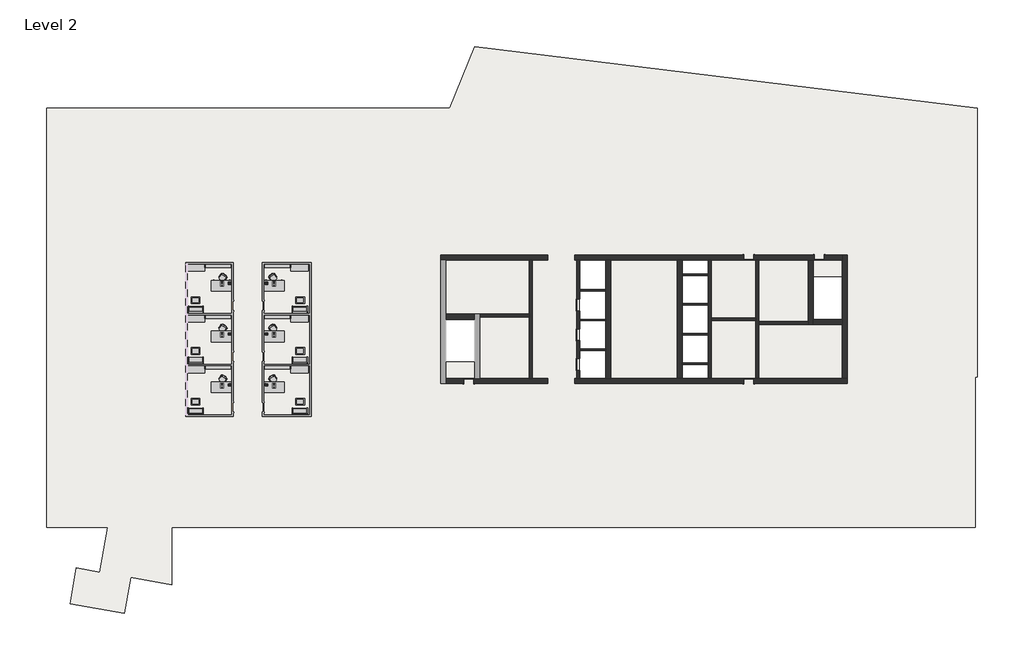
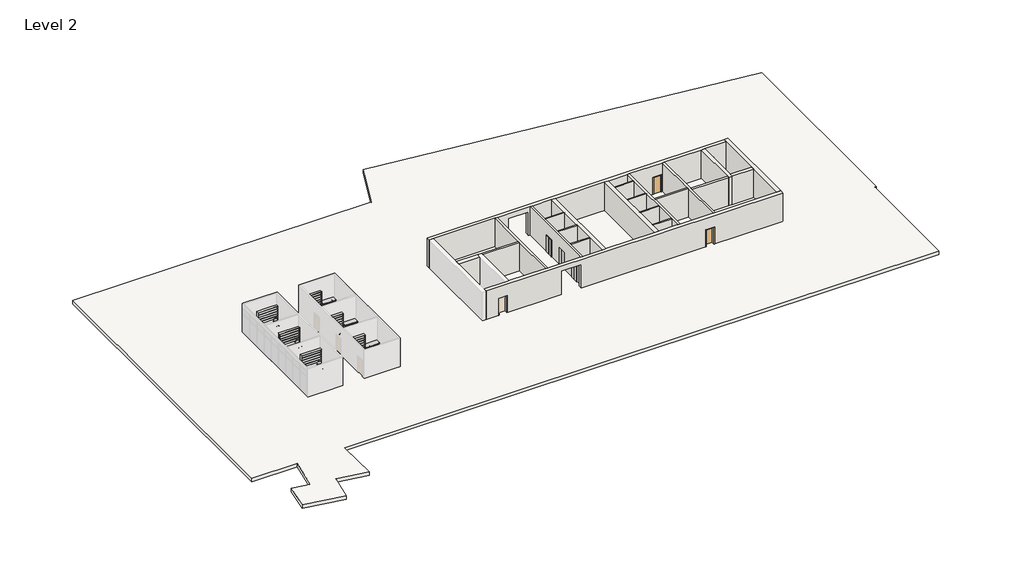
# One storey, part 2 of 2: 36 furniture elements, 22 walls, 15 proxies, 3 doors, 1 slab.
"""IFC4 building model written with IfcOpenShell, lengths in millimetres."""

from ifc_helpers import new_model, si_unit, frame, origin, place, context, project, spatial, polyline, outline, extrude, faceted_brep, transform, mapped, element, save
from components import entourage_0ad6723a, entourage_8dadc95b, proxy_7fed659c, phone_phone_5230e7aa, phone_phone_b8b7aebd, door_3c99239a, door_aec9db07, chair_executive_chair_executive_8d69e98c, chair_executive_chair_executive_a5be4872, furniture_894c625b, furniture_2f1724fb, furniture_2fc54265, furniture_91cd4dc0, furniture_b1da5ad0, furniture_33c9adaf, furniture_22419f35, furniture_8ec9ccbf, furniture_5f90431c, furniture_32e53e92

model = new_model("IFC4")

# Units and contexts
model_context = context("Model", 3, world=origin())
ifc_project = project(units=[si_unit("LENGTHUNIT", "METRE", prefix="MILLI")], contexts=[model_context])

# Site, building, storey
site = spatial("IfcSite", under=ifc_project)
building = spatial("IfcBuilding", under=site)
storey = spatial("IfcBuildingStorey", under=building, Name="Level 2", Elevation=3657.6)

# Proxies
placement = place(None, origin())
entourage_shape = entourage_0ad6723a(model_context)
element("IfcBuildingElementProxy", 1, Name="RPC Notebook Computer : RPC Notebook Computer", ObjectType="RPC Notebook Computer : RPC Notebook Computer", at=placement, inside=storey, context=model_context, shape_type="MappedRepresentation", body=[
    mapped(entourage_shape, transform((-52901.4856498, -14963.1103492, 4419.6), x_axis=(-1.0, 0.0, 0.0), y_axis=(0.0, -1.0, 0.0), z_axis=(0.0, 0.0, 1.0))),
])
element("IfcBuildingElementProxy", 2, Name="RPC Notebook Computer : RPC Notebook Computer", ObjectType="RPC Notebook Computer : RPC Notebook Computer", at=placement, inside=storey, context=model_context, shape_type="MappedRepresentation", body=[
    mapped(entourage_shape, transform((-52901.4856498, -10391.1103492, 4419.6), x_axis=(-1.0, 0.0, 0.0), y_axis=(0.0, -1.0, 0.0), z_axis=(0.0, 0.0, 1.0))),
])
element("IfcBuildingElementProxy", 3, Name="RPC Notebook Computer : RPC Notebook Computer", ObjectType="RPC Notebook Computer : RPC Notebook Computer", at=placement, inside=storey, context=model_context, shape_type="MappedRepresentation", body=[
    mapped(entourage_shape, transform((-52901.4856498, -5819.1103492, 4419.6), x_axis=(-1.0, 0.0, 0.0), y_axis=(0.0, -1.0, 0.0), z_axis=(0.0, 0.0, 1.0))),
])
entourage_2_shape = entourage_8dadc95b(model_context)
element("IfcBuildingElementProxy", 4, Name="RPC Notebook Computer : RPC Notebook Computer", ObjectType="RPC Notebook Computer : RPC Notebook Computer", at=placement, inside=storey, context=model_context, shape_type="MappedRepresentation", body=[
    mapped(entourage_2_shape, transform((-48216.9999355, -10391.1103492, 4419.6), x_axis=(1.0, 0.0, 0.0), y_axis=(0.0, 1.0, 0.0), z_axis=(0.0, 0.0, 1.0))),
])
element("IfcBuildingElementProxy", 5, Name="RPC Notebook Computer : RPC Notebook Computer", ObjectType="RPC Notebook Computer : RPC Notebook Computer", at=placement, inside=storey, context=model_context, shape_type="MappedRepresentation", body=[
    mapped(entourage_2_shape, transform((-48216.9999355, -14963.1103492, 4419.6), x_axis=(1.0, 0.0, 0.0), y_axis=(0.0, 1.0, 0.0), z_axis=(0.0, 0.0, 1.0))),
])
element("IfcBuildingElementProxy", 6, Name="RPC Notebook Computer : RPC Notebook Computer", ObjectType="RPC Notebook Computer : RPC Notebook Computer", at=placement, inside=storey, context=model_context, shape_type="MappedRepresentation", body=[
    mapped(entourage_2_shape, transform((-48216.9999355, -5819.1103492, 4419.6), x_axis=(1.0, 0.0, 0.0), y_axis=(0.0, 1.0, 0.0), z_axis=(0.0, 0.0, 1.0))),
])
proxy_shape = proxy_7fed659c(model_context)
element("IfcBuildingElementProxy", 7, Name="Elevator%20Door-Center[1] : 42\" x 84\"", ObjectType="Elevator%20Door-Center[1] : 42\" x 84\"", at=placement, inside=storey, context=model_context, shape_type="MappedRepresentation", body=[
    mapped(proxy_shape, transform((-20852.1285069, -7663.0747049, 3657.6), x_axis=(0.0, 1.0, 0.0), y_axis=(-1.0, 0.0, 0.0), z_axis=(0.0, 0.0, 1.0))),
])
element("IfcBuildingElementProxy", 8, Name="Elevator%20Door-Center[1] : 42\" x 84\"", ObjectType="Elevator%20Door-Center[1] : 42\" x 84\"", at=placement, inside=storey, context=model_context, shape_type="MappedRepresentation", body=[
    mapped(proxy_shape, transform((-20852.1285069, -10330.0747049, 3657.6), x_axis=(0.0, 1.0, 0.0), y_axis=(-1.0, 0.0, 0.0), z_axis=(0.0, 0.0, 1.0))),
])
element("IfcBuildingElementProxy", 9, Name="Elevator%20Door-Center[1] : 42\" x 84\"", ObjectType="Elevator%20Door-Center[1] : 42\" x 84\"", at=placement, inside=storey, context=model_context, shape_type="MappedRepresentation", body=[
    mapped(proxy_shape, transform((-20852.1285069, -12997.0747049, 3657.6), x_axis=(0.0, 1.0, 0.0), y_axis=(-1.0, 0.0, 0.0), z_axis=(0.0, 0.0, 1.0))),
])
phone_phone_shape = phone_phone_5230e7aa(model_context)
element("IfcBuildingElementProxy", 10, Name="Phone : Phone", ObjectType="Phone : Phone", at=placement, inside=storey, context=model_context, shape_type="MappedRepresentation", body=[
    mapped(phone_phone_shape, transform((-51981.0043036, -15147.0065782, 4419.6), x_axis=(1.0, 0.0, 0.0), y_axis=(0.0, 1.0, 0.0), z_axis=(0.0, 0.0, 1.0))),
])
element("IfcBuildingElementProxy", 11, Name="Phone : Phone", ObjectType="Phone : Phone", at=placement, inside=storey, context=model_context, shape_type="MappedRepresentation", body=[
    mapped(phone_phone_shape, transform((-51981.0043036, -10575.0065782, 4419.6), x_axis=(1.0, 0.0, 0.0), y_axis=(0.0, 1.0, 0.0), z_axis=(0.0, 0.0, 1.0))),
])
element("IfcBuildingElementProxy", 12, Name="Phone : Phone", ObjectType="Phone : Phone", at=placement, inside=storey, context=model_context, shape_type="MappedRepresentation", body=[
    mapped(phone_phone_shape, transform((-51981.0043036, -6003.0065782, 4419.6), x_axis=(1.0, 0.0, 0.0), y_axis=(0.0, 1.0, 0.0), z_axis=(0.0, 0.0, 1.0))),
])
phone_phone_2_shape = phone_phone_b8b7aebd(model_context)
element("IfcBuildingElementProxy", 13, Name="Phone : Phone", ObjectType="Phone : Phone", at=placement, inside=storey, context=model_context, shape_type="MappedRepresentation", body=[
    mapped(phone_phone_2_shape, transform((-49137.4812816, -10575.0065782, 4419.6), x_axis=(-1.0, 0.0, 0.0), y_axis=(0.0, -1.0, 0.0), z_axis=(0.0, 0.0, 1.0))),
])
element("IfcBuildingElementProxy", 14, Name="Phone : Phone", ObjectType="Phone : Phone", at=placement, inside=storey, context=model_context, shape_type="MappedRepresentation", body=[
    mapped(phone_phone_2_shape, transform((-49137.4812816, -15147.0065782, 4419.6), x_axis=(-1.0, 0.0, 0.0), y_axis=(0.0, -1.0, 0.0), z_axis=(0.0, 0.0, 1.0))),
])
element("IfcBuildingElementProxy", 15, Name="Phone : Phone", ObjectType="Phone : Phone", at=placement, inside=storey, context=model_context, shape_type="MappedRepresentation", body=[
    mapped(phone_phone_2_shape, transform((-49137.4812816, -6003.0065782, 4419.6), x_axis=(-1.0, 0.0, 0.0), y_axis=(0.0, -1.0, 0.0), z_axis=(0.0, 0.0, 1.0))),
])

# Doors
door_shape = door_3c99239a(model_context)
element("IfcDoor", 16, ObjectType="Single-Flush : 36\" x 84\"", at=placement, inside=storey, context=model_context, shape_type="MappedRepresentation", body=[
    mapped(door_shape, transform((817.7000645, -3469.6103492, 3657.6), x_axis=(-1.0, 0.0, 0.0), y_axis=(0.0, -1.0, 0.0), z_axis=(0.0, 0.0, 1.0))),
])
element("IfcDoor", 17, ObjectType="Single-Flush : 36\" x 84\"", at=placement, inside=storey, context=model_context, shape_type="MappedRepresentation", body=[
    mapped(door_shape, transform((-5525.0427926, -14594.8103492, 3657.6), x_axis=(1.0, 0.0, 0.0), y_axis=(0.0, 1.0, 0.0), z_axis=(0.0, 0.0, 1.0))),
])
door_2_shape = door_aec9db07(model_context)
element("IfcDoor", 18, ObjectType="Single-Flush : 36\" x 84\"", at=placement, inside=storey, context=model_context, shape_type="MappedRepresentation", body=[
    mapped(door_2_shape, transform((-5525.0427926, -3469.6103492, 3657.6), x_axis=(1.0, 0.0, 0.0), y_axis=(0.0, 1.0, 0.0), z_axis=(0.0, 0.0, 1.0))),
])

# Furniture
chair_executive_chair_executive_shape = chair_executive_chair_executive_8d69e98c(model_context)
element("IfcFurniture", 19, ObjectType="Chair-Executive : Chair-Executive", at=placement, inside=storey, context=model_context, shape_type="MappedRepresentation", body=[
    mapped(chair_executive_chair_executive_shape, transform((-52699.1922211, -14498.6688157, 3657.6), x_axis=(-0.838670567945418, 0.5446390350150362, 0.0), y_axis=(-0.5446390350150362, -0.838670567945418, 0.0), z_axis=(0.0, 0.0, 1.0))),
])
element("IfcFurniture", 20, ObjectType="Chair-Executive : Chair-Executive", at=placement, inside=storey, context=model_context, shape_type="MappedRepresentation", body=[
    mapped(chair_executive_chair_executive_shape, transform((-52699.1922211, -9926.6688157, 3657.6), x_axis=(-0.8386705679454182, 0.5446390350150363, 0.0), y_axis=(-0.5446390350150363, -0.8386705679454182, 0.0), z_axis=(0.0, 0.0, 1.0))),
])
element("IfcFurniture", 21, ObjectType="Chair-Executive : Chair-Executive", at=placement, inside=storey, context=model_context, shape_type="MappedRepresentation", body=[
    mapped(chair_executive_chair_executive_shape, transform((-52699.1922211, -5354.6688157, 3657.6), x_axis=(-0.8386705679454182, 0.5446390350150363, 0.0), y_axis=(-0.5446390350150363, -0.8386705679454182, 0.0), z_axis=(0.0, 0.0, 1.0))),
])
chair_executive_chair_executive_2_shape = chair_executive_chair_executive_a5be4872(model_context)
element("IfcFurniture", 22, ObjectType="Chair-Executive : Chair-Executive", at=placement, inside=storey, context=model_context, shape_type="MappedRepresentation", body=[
    mapped(chair_executive_chair_executive_2_shape, transform((-48419.2933641, -9926.6688157, 3657.6), x_axis=(0.8386705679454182, 0.5446390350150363, 0.0), y_axis=(-0.5446390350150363, 0.8386705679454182, 0.0), z_axis=(0.0, 0.0, 1.0))),
])
element("IfcFurniture", 23, ObjectType="Chair-Executive : Chair-Executive", at=placement, inside=storey, context=model_context, shape_type="MappedRepresentation", body=[
    mapped(chair_executive_chair_executive_2_shape, transform((-48419.2933641, -14498.6688157, 3657.6), x_axis=(0.8386705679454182, 0.5446390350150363, 0.0), y_axis=(-0.5446390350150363, 0.8386705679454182, 0.0), z_axis=(0.0, 0.0, 1.0))),
])
element("IfcFurniture", 24, ObjectType="Chair-Executive : Chair-Executive", at=placement, inside=storey, context=model_context, shape_type="MappedRepresentation", body=[
    mapped(chair_executive_chair_executive_2_shape, transform((-48419.2933641, -5354.6688157, 3657.6), x_axis=(0.8386705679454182, 0.5446390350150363, 0.0), y_axis=(-0.5446390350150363, 0.8386705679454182, 0.0), z_axis=(0.0, 0.0, 1.0))),
])
furniture_shape = furniture_894c625b(model_context)
element("IfcFurniture", 25, ObjectType="Credenza : 60\" x 24\"", at=placement, inside=storey, context=model_context, shape_type="MappedRepresentation", body=[
    mapped(furniture_shape, transform((-55272.4299121, -13519.8906771, 3657.6), x_axis=(1.0, 0.0, 0.0), y_axis=(0.0, 1.0, 0.0), z_axis=(0.0, 0.0, 1.0))),
])
element("IfcFurniture", 26, ObjectType="Credenza : 60\" x 24\"", at=placement, inside=storey, context=model_context, shape_type="MappedRepresentation", body=[
    mapped(furniture_shape, transform((-55272.4299121, -8947.8906771, 3657.6), x_axis=(1.0, 0.0, 0.0), y_axis=(0.0, 1.0, 0.0), z_axis=(0.0, 0.0, 1.0))),
])
element("IfcFurniture", 27, ObjectType="Credenza : 60\" x 24\"", at=placement, inside=storey, context=model_context, shape_type="MappedRepresentation", body=[
    mapped(furniture_shape, transform((-55272.4299121, -4375.8906771, 3657.6), x_axis=(1.0, 0.0, 0.0), y_axis=(0.0, 1.0, 0.0), z_axis=(0.0, 0.0, 1.0))),
])
furniture_2_shape = furniture_2f1724fb(model_context)
element("IfcFurniture", 28, ObjectType="Credenza : 60\" x 24\"", at=placement, inside=storey, context=model_context, shape_type="MappedRepresentation", body=[
    mapped(furniture_2_shape, transform((-45846.0556732, -8947.8906771, 3657.6), x_axis=(-1.0, 0.0, 0.0), y_axis=(0.0, -1.0, 0.0), z_axis=(0.0, 0.0, 1.0))),
])
element("IfcFurniture", 29, ObjectType="Credenza : 60\" x 24\"", at=placement, inside=storey, context=model_context, shape_type="MappedRepresentation", body=[
    mapped(furniture_2_shape, transform((-45846.0556732, -13519.8906771, 3657.6), x_axis=(-1.0, 0.0, 0.0), y_axis=(0.0, -1.0, 0.0), z_axis=(0.0, 0.0, 1.0))),
])
element("IfcFurniture", 30, ObjectType="Credenza : 60\" x 24\"", at=placement, inside=storey, context=model_context, shape_type="MappedRepresentation", body=[
    mapped(furniture_2_shape, transform((-45846.0556732, -4375.8906771, 3657.6), x_axis=(-1.0, 0.0, 0.0), y_axis=(0.0, -1.0, 0.0), z_axis=(0.0, 0.0, 1.0))),
])
furniture_3_shape = furniture_2fc54265(model_context)
element("IfcFurniture", 31, ObjectType="Desk : 72\" x 36\"", at=placement, inside=storey, context=model_context, shape_type="MappedRepresentation", body=[
    mapped(furniture_3_shape, transform((-53815.8856498, -15610.8103492, 3657.6), x_axis=(1.0000000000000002, 0.0, 0.0), y_axis=(0.0, 1.0000000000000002, 0.0), z_axis=(0.0, 0.0, 1.0))),
])
element("IfcFurniture", 32, ObjectType="Desk : 72\" x 36\"", at=placement, inside=storey, context=model_context, shape_type="MappedRepresentation", body=[
    mapped(furniture_3_shape, transform((-53815.8856498, -11038.8103492, 3657.6), x_axis=(1.0, 0.0, 0.0), y_axis=(0.0, 1.0, 0.0), z_axis=(0.0, 0.0, 1.0))),
])
element("IfcFurniture", 33, ObjectType="Desk : 72\" x 36\"", at=placement, inside=storey, context=model_context, shape_type="MappedRepresentation", body=[
    mapped(furniture_3_shape, transform((-53815.8856498, -6466.8103492, 3657.6), x_axis=(1.0, 0.0, 0.0), y_axis=(0.0, 1.0, 0.0), z_axis=(0.0, 0.0, 1.0))),
])
furniture_4_shape = furniture_91cd4dc0(model_context)
element("IfcFurniture", 34, ObjectType="Desk : 72\" x 36\"", at=placement, inside=storey, context=model_context, shape_type="MappedRepresentation", body=[
    mapped(furniture_4_shape, transform((-47302.5999355, -11038.8103492, 3657.6), x_axis=(-1.0, 0.0, 0.0), y_axis=(0.0, -1.0, 0.0), z_axis=(0.0, 0.0, 1.0))),
])
element("IfcFurniture", 35, ObjectType="Desk : 72\" x 36\"", at=placement, inside=storey, context=model_context, shape_type="MappedRepresentation", body=[
    mapped(furniture_4_shape, transform((-47302.5999355, -15610.8103492, 3657.6), x_axis=(-1.0, 0.0, 0.0), y_axis=(0.0, -1.0, 0.0), z_axis=(0.0, 0.0, 1.0))),
])
element("IfcFurniture", 36, ObjectType="Desk : 72\" x 36\"", at=placement, inside=storey, context=model_context, shape_type="MappedRepresentation", body=[
    mapped(furniture_4_shape, transform((-47302.5999355, -6466.8103492, 3657.6), x_axis=(-1.0, 0.0, 0.0), y_axis=(0.0, -1.0, 0.0), z_axis=(0.0, 0.0, 1.0))),
])
furniture_5_shape = furniture_b1da5ad0(model_context)
element("IfcFurniture", 37, ObjectType="Shelving : 96\" x 12\" x 84\"", at=placement, inside=storey, context=model_context, shape_type="MappedRepresentation", body=[
    mapped(furniture_5_shape, transform((-53206.2856498, -13058.1103492, 3657.6), x_axis=(1.0, 0.0, 0.0), y_axis=(0.0, 1.0, 0.0), z_axis=(0.0, 0.0, 1.0))),
])
element("IfcFurniture", 38, ObjectType="Shelving : 96\" x 12\" x 84\"", at=placement, inside=storey, context=model_context, shape_type="MappedRepresentation", body=[
    mapped(furniture_5_shape, transform((-53206.2856498, -8486.1103492, 3657.6), x_axis=(1.0, 0.0, 0.0), y_axis=(0.0, 1.0, 0.0), z_axis=(0.0, 0.0, 1.0))),
])
element("IfcFurniture", 39, ObjectType="Shelving : 96\" x 12\" x 84\"", at=placement, inside=storey, context=model_context, shape_type="MappedRepresentation", body=[
    mapped(furniture_5_shape, transform((-53206.2856498, -3914.1103492, 3657.6), x_axis=(1.0, 0.0, 0.0), y_axis=(0.0, 1.0, 0.0), z_axis=(0.0, 0.0, 1.0))),
])
furniture_6_shape = furniture_33c9adaf(model_context)
element("IfcFurniture", 40, ObjectType="Shelving : 96\" x 12\" x 84\"", at=placement, inside=storey, context=model_context, shape_type="MappedRepresentation", body=[
    mapped(furniture_6_shape, transform((-47912.1999355, -8486.1103492, 3657.6), x_axis=(-1.0, 0.0, 0.0), y_axis=(0.0, -1.0, 0.0), z_axis=(0.0, 0.0, 1.0))),
])
element("IfcFurniture", 41, ObjectType="Shelving : 96\" x 12\" x 84\"", at=placement, inside=storey, context=model_context, shape_type="MappedRepresentation", body=[
    mapped(furniture_6_shape, transform((-47912.1999355, -13058.1103492, 3657.6), x_axis=(-1.0, 0.0, 0.0), y_axis=(0.0, -1.0, 0.0), z_axis=(0.0, 0.0, 1.0))),
])
element("IfcFurniture", 42, ObjectType="Shelving : 96\" x 12\" x 84\"", at=placement, inside=storey, context=model_context, shape_type="MappedRepresentation", body=[
    mapped(furniture_6_shape, transform((-47912.1999355, -3914.1103492, 3657.6), x_axis=(-1.0, 0.0, 0.0), y_axis=(0.0, -1.0, 0.0), z_axis=(0.0, 0.0, 1.0))),
])
furniture_7_shape = furniture_22419f35(model_context)
element("IfcFurniture", 43, ObjectType="Sofa : 54\"", at=placement, inside=storey, context=model_context, shape_type="MappedRepresentation", body=[
    mapped(furniture_7_shape, transform((-55167.915158, -17174.6119184, 3657.6), x_axis=(-1.0, 0.0, 0.0), y_axis=(0.0, -1.0, 0.0), z_axis=(0.0, 0.0, 1.0))),
])
element("IfcFurniture", 44, ObjectType="Sofa : 54\"", at=placement, inside=storey, context=model_context, shape_type="MappedRepresentation", body=[
    mapped(furniture_7_shape, transform((-55167.915158, -12602.6119184, 3657.6), x_axis=(-1.0, 0.0, 0.0), y_axis=(0.0, -1.0, 0.0), z_axis=(0.0, 0.0, 1.0))),
])
element("IfcFurniture", 45, ObjectType="Sofa : 54\"", at=placement, inside=storey, context=model_context, shape_type="MappedRepresentation", body=[
    mapped(furniture_7_shape, transform((-55167.915158, -8030.6119184, 3657.6), x_axis=(-1.0, 0.0, 0.0), y_axis=(0.0, -1.0, 0.0), z_axis=(0.0, 0.0, 1.0))),
])
furniture_8_shape = furniture_8ec9ccbf(model_context)
element("IfcFurniture", 46, ObjectType="Sofa : 54\"", at=placement, inside=storey, context=model_context, shape_type="MappedRepresentation", body=[
    mapped(furniture_8_shape, transform((-45950.5704273, -12602.6119184, 3657.6), x_axis=(1.0, 0.0, 0.0), y_axis=(0.0, 1.0, 0.0), z_axis=(0.0, 0.0, 1.0))),
])
element("IfcFurniture", 47, ObjectType="Sofa : 54\"", at=placement, inside=storey, context=model_context, shape_type="MappedRepresentation", body=[
    mapped(furniture_8_shape, transform((-45950.5704273, -17174.6119184, 3657.6), x_axis=(1.0, 0.0, 0.0), y_axis=(0.0, 1.0, 0.0), z_axis=(0.0, 0.0, 1.0))),
])
element("IfcFurniture", 48, ObjectType="Sofa : 54\"", at=placement, inside=storey, context=model_context, shape_type="MappedRepresentation", body=[
    mapped(furniture_8_shape, transform((-45950.5704273, -8030.6119184, 3657.6), x_axis=(1.0, 0.0, 0.0), y_axis=(0.0, 1.0, 0.0), z_axis=(0.0, 0.0, 1.0))),
])
furniture_9_shape = furniture_5f90431c(model_context)
element("IfcFurniture", 49, ObjectType="Table-Coffee : 31\" x 28\" x 24\"", at=placement, inside=storey, context=model_context, shape_type="MappedRepresentation", body=[
    mapped(furniture_9_shape, transform((-55168.474572, -16475.4317834, 3657.6), x_axis=(0.0, 1.0, 0.0), y_axis=(-1.0, 0.0, 0.0), z_axis=(0.0, 0.0, 1.0))),
])
element("IfcFurniture", 50, ObjectType="Table-Coffee : 31\" x 28\" x 24\"", at=placement, inside=storey, context=model_context, shape_type="MappedRepresentation", body=[
    mapped(furniture_9_shape, transform((-55168.474572, -11903.4317834, 3657.6), x_axis=(0.0, 1.0, 0.0), y_axis=(-1.0, 0.0, 0.0), z_axis=(0.0, 0.0, 1.0))),
])
element("IfcFurniture", 51, ObjectType="Table-Coffee : 31\" x 28\" x 24\"", at=placement, inside=storey, context=model_context, shape_type="MappedRepresentation", body=[
    mapped(furniture_9_shape, transform((-55168.474572, -7331.4317834, 3657.6), x_axis=(0.0, 1.0, 0.0), y_axis=(-1.0, 0.0, 0.0), z_axis=(0.0, 0.0, 1.0))),
])
furniture_10_shape = furniture_32e53e92(model_context)
element("IfcFurniture", 52, ObjectType="Table-Coffee : 31\" x 28\" x 24\"", at=placement, inside=storey, context=model_context, shape_type="MappedRepresentation", body=[
    mapped(furniture_10_shape, transform((-45950.0110133, -11903.4317834, 3657.6), x_axis=(0.0, 1.0, 0.0), y_axis=(-1.0, 0.0, 0.0), z_axis=(0.0, 0.0, 1.0))),
])
element("IfcFurniture", 53, ObjectType="Table-Coffee : 31\" x 28\" x 24\"", at=placement, inside=storey, context=model_context, shape_type="MappedRepresentation", body=[
    mapped(furniture_10_shape, transform((-45950.0110133, -16475.4317834, 3657.6), x_axis=(0.0, 1.0, 0.0), y_axis=(-1.0, 0.0, 0.0), z_axis=(0.0, 0.0, 1.0))),
])
element("IfcFurniture", 54, ObjectType="Table-Coffee : 31\" x 28\" x 24\"", at=placement, inside=storey, context=model_context, shape_type="MappedRepresentation", body=[
    mapped(furniture_10_shape, transform((-45950.0110133, -7331.4317834, 3657.6), x_axis=(0.0, 1.0, 0.0), y_axis=(-1.0, 0.0, 0.0), z_axis=(0.0, 0.0, 1.0))),
])

# Slab
element("IfcSlab", 55, ObjectType="Steel Bar Joist 14\" - Concrete", at=placement, inside=storey, context=model_context, shape_type="SweptSolid", body=[
    extrude(outline(polyline([(-68660.7599961, -27742.4853492), (-68660.7599961, 9954.2896508), (-32421.4843139, 9954.2896508), (-30175.817983, 15512.5088637), (15043.3054088, 9960.2986536), (15043.3054088, -14218.4266737), (14830.5804088, -14218.4266737), (14830.5804088, -27735.220667), (-57415.8125003, -27735.220667), (-57415.8125003, -32919.911766), (-61087.9334678, -32272.417763), (-61658.0117526, -35505.4923758), (-66551.3983764, -34642.656287), (-65981.3200915, -31409.5816742), (-63880.1342697, -31780.0774261), (-63168.1978494, -27742.4853492), (-68660.7599961, -27742.4853492)]), holes=[polyline([(-32750.2142212, -9032.2103492), (-32750.2142212, -12842.2103492), (-30166.6713641, -12842.2103492), (-30166.6713641, -9032.2103492), (-32750.2142212, -9032.2103492)]), polyline([(-20725.1285069, -3698.2103492), (-20725.1285069, -14366.2103492), (-18385.1284437, -14366.2103492), (-18385.1284437, -3698.2103492), (-20725.1285069, -3698.2103492)]), polyline([(-9157.2427926, -3698.2103492), (-11497.2428559, -3698.2103492), (-11497.2428559, -14366.2103492), (-9157.2427926, -14366.2103492), (-9157.2427926, -3698.2103492)]), polyline([(2867.8429217, -9032.2103492), (2867.8429217, -5222.2103492), (284.3000645, -5222.2103492), (284.3000645, -9032.2103492), (2867.8429217, -9032.2103492)])]), frame((0.0, 0.0, 3222.625), z_axis=(0.0, 0.0, 1.0), x_axis=(1.0, 0.0, 0.0)), (0.0, 0.0, 1.0), 434.975),
])

# Walls
element("IfcWall", 56, ObjectType="Core-shaft 10\" Concrete", at=placement, inside=storey, context=model_context, shape_type="SweptSolid", body=[
    extrude(outline(polyline([(-14366.2103492, 7315.2), (-3698.2103492, 7315.2), (-3698.2103492, 3657.6), (-7222.4603492, 3657.6), (-7222.4603492, 5816.6), (-8301.9603492, 5816.6), (-8301.9603492, 3657.6), (-9889.4603492, 3657.6), (-9889.4603492, 5816.6), (-10968.9603492, 5816.6), (-10968.9603492, 3657.6), (-12556.4603492, 3657.6), (-12556.4603492, 5816.6), (-13635.9603492, 5816.6), (-13635.9603492, 3657.6), (-14366.2103492, 3657.6), (-14366.2103492, 7315.2)])), frame((-20979.1285069, 0.0, 0.0), z_axis=(1.0, 0.0, 0.0), x_axis=(0.0, 1.0, 0.0)), (0.0, 0.0, 1.0), 254.0),
])
element("IfcWall", 57, ObjectType="Core-shaft 10\" Concrete", at=placement, inside=storey, context=model_context, shape_type="Brep", body=[
    faceted_brep([(-24992.3285069, -14366.2103492, 3657.6), (-24992.3285069, -3698.2103492, 3657.6), (-24992.3285069, -3698.2103492, 7315.2), (-24992.3285069, -14366.2103492, 7315.2), (-25246.3285069, -14366.2103492, 3657.6), (-25246.3285069, -14366.2103492, 7315.2), (-25246.3285069, -8829.0103492, 7315.2), (-25246.3285069, -8575.0103492, 7315.2), (-25246.3285069, -3698.2103492, 7315.2), (-25246.3285069, -3698.2103492, 3657.6), (-25246.3285069, -8575.0103492, 3657.6), (-25246.3285069, -8829.0103492, 3657.6)], [[[0, 1, 2, 3]], [[4, 5, 6, 7, 8, 9, 10, 11]], [[1, 0, 4, 11, 10, 9]], [[3, 2, 8, 7, 6, 5]], [[2, 1, 9, 8]], [[0, 3, 5, 4]]]),
])
element("IfcWall", 58, ObjectType="Core-shaft 10\" Concrete", at=placement, inside=storey, context=model_context, shape_type="SweptSolid", body=[
    extrude(outline(polyline([(-25246.3285069, -8829.0103492), (-29709.4713641, -8829.0103492), (-29709.4713641, -8575.0103492), (-25246.3285069, -8575.0103492), (-25246.3285069, -8829.0103492)])), frame((0.0, 0.0, 3657.6), z_axis=(0.0, 0.0, 1.0), x_axis=(1.0, 0.0, 0.0)), (0.0, 0.0, 1.0), 3657.6),
])
element("IfcWall", 59, ObjectType="Core-shaft 10\" Concrete", at=placement, inside=storey, context=model_context, shape_type="SweptSolid", body=[
    extrude(outline(polyline([(-8903.2427926, -3698.2103492), (-8903.2427926, -14366.2103492), (-9157.2427926, -14366.2103492), (-9157.2427926, -3698.2103492), (-8903.2427926, -3698.2103492)])), frame((0.0, 0.0, 3657.6), z_axis=(0.0, 0.0, 1.0), x_axis=(1.0, 0.0, 0.0)), (0.0, 0.0, 1.0), 3657.6),
])
element("IfcWall", 60, ObjectType="Core-shaft 10\" Concrete", at=placement, inside=storey, context=model_context, shape_type="Brep", body=[
    faceted_brep([(-4636.0427926, -14366.2103492, 3657.6), (-4636.0427926, -9489.4103492, 3657.6), (-4636.0427926, -9235.4103492, 3657.6), (-4636.0427926, -3698.2103492, 3657.6), (-4636.0427926, -3698.2103492, 7315.2), (-4636.0427926, -9235.4103492, 7315.2), (-4636.0427926, -9489.4103492, 7315.2), (-4636.0427926, -14366.2103492, 7315.2), (-4890.0427926, -14366.2103492, 3657.6), (-4890.0427926, -14366.2103492, 7315.2), (-4890.0427926, -3698.2103492, 7315.2), (-4890.0427926, -3698.2103492, 3657.6)], [[[0, 1, 2, 3, 4, 5, 6, 7]], [[8, 9, 10, 11]], [[3, 2, 1, 0, 8, 11]], [[7, 6, 5, 4, 10, 9]], [[4, 3, 11, 10]], [[0, 7, 9, 8]]]),
])
element("IfcWall", 61, ObjectType="Core-shaft 10\" Concrete", at=placement, inside=storey, context=model_context, shape_type="SweptSolid", body=[
    extrude(outline(polyline([(-4636.0427926, -9235.4103492), (-172.8999355, -9235.4103492), (-172.8999355, -9489.4103492), (-4636.0427926, -9489.4103492), (-4636.0427926, -9235.4103492)])), frame((0.0, 0.0, 3657.6), z_axis=(0.0, 0.0, 1.0), x_axis=(1.0, 0.0, 0.0)), (0.0, 0.0, 1.0), 3657.6),
])
element("IfcWall", 62, ObjectType="Core-shaft 10\" Concrete", at=placement, inside=storey, context=model_context, shape_type="SweptSolid", body=[
    extrude(outline(polyline([(-8903.2427926, -8905.2103492), (-4890.0427926, -8905.2103492), (-4890.0427926, -9159.2103492), (-8903.2427926, -9159.2103492), (-8903.2427926, -8905.2103492)])), frame((0.0, 0.0, 3657.6), z_axis=(0.0, 0.0, 1.0), x_axis=(1.0, 0.0, 0.0)), (0.0, 0.0, 1.0), 3657.6),
])
element("IfcWall", 63, ObjectType="Core-shaft 18\" Concrete", at=placement, inside=storey, context=model_context, shape_type="Brep", body=[
    faceted_brep([(3325.0429217, -14366.2103492, 3657.6), (2867.8429217, -14366.2103492, 3657.6), (-4636.0427926, -14366.2103492, 3657.6), (-4890.0427926, -14366.2103492, 3657.6), (-5067.8427926, -14366.2103492, 3657.6), (-5067.8427926, -14366.2103492, 5791.2), (-5982.2427926, -14366.2103492, 5791.2), (-5982.2427926, -14366.2103492, 3657.6), (-8903.2427926, -14366.2103492, 3657.6), (-9157.2427926, -14366.2103492, 3657.6), (-11497.2428559, -14366.2103492, 3657.6), (-11954.4428559, -14366.2103492, 3657.6), (-17927.9284437, -14366.2103492, 3657.6), (-18385.1284437, -14366.2103492, 3657.6), (-20725.1285069, -14366.2103492, 3657.6), (-20979.1285069, -14366.2103492, 3657.6), (-21167.8142212, -14366.2103492, 3657.6), (-21167.8142212, -14366.2103492, 6705.6), (-23606.2142212, -14366.2103492, 6705.6), (-23606.2142212, -14366.2103492, 3657.6), (-24992.3285069, -14366.2103492, 3657.6), (-25246.3285069, -14366.2103492, 3657.6), (-29709.4713641, -14366.2103492, 3657.6), (-30166.6713641, -14366.2103492, 3657.6), (-30242.8713641, -14366.2103492, 3657.6), (-30242.8713641, -14366.2103492, 5791.2), (-31157.2713641, -14366.2103492, 5791.2), (-31157.2713641, -14366.2103492, 3657.6), (-32750.2142212, -14366.2103492, 3657.6), (-32750.2142212, -14366.2103492, 7315.2), (-30166.6713641, -14366.2103492, 7315.2), (-29709.4713641, -14366.2103492, 7315.2), (-25246.3285069, -14366.2103492, 7315.2), (-24992.3285069, -14366.2103492, 7315.2), (-20979.1285069, -14366.2103492, 7315.2), (-20725.1285069, -14366.2103492, 7315.2), (-18385.1284437, -14366.2103492, 7315.2), (-17927.9284437, -14366.2103492, 7315.2), (-11954.4428559, -14366.2103492, 7315.2), (-11497.2428559, -14366.2103492, 7315.2), (-9157.2427926, -14366.2103492, 7315.2), (-8903.2427926, -14366.2103492, 7315.2), (-4890.0427926, -14366.2103492, 7315.2), (-4636.0427926, -14366.2103492, 7315.2), (2867.8429217, -14366.2103492, 7315.2), (3325.0429217, -14366.2103492, 7315.2), (-5067.8427926, -14823.4103492, 5791.2), (-5067.8427926, -14823.4103492, 3657.6), (3325.0429217, -14823.4103492, 3657.6), (3325.0429217, -14823.4103492, 7315.2), (-32750.2142212, -14823.4103492, 7315.2), (-32750.2142212, -14823.4103492, 3657.6), (-31157.2713641, -14823.4103492, 3657.6), (-31157.2713641, -14823.4103492, 5791.2), (-30242.8713641, -14823.4103492, 5791.2), (-30242.8713641, -14823.4103492, 3657.6), (-23606.2142212, -14823.4103492, 3657.6), (-23606.2142212, -14823.4103492, 6705.6), (-21167.8142212, -14823.4103492, 6705.6), (-21167.8142212, -14823.4103492, 3657.6), (-5982.2427926, -14823.4103492, 3657.6), (-5982.2427926, -14823.4103492, 5791.2)], [[[0, 1, 2, 3, 4, 5, 6, 7, 8, 9, 10, 11, 12, 13, 14, 15, 16, 17, 18, 19, 20, 21, 22, 23, 24, 25, 26, 27, 28, 29, 30, 31, 32, 33, 34, 35, 36, 37, 38, 39, 40, 41, 42, 43, 44, 45]], [[46, 47, 48, 49, 50, 51, 52, 53, 54, 55, 56, 57, 58, 59, 60, 61]], [[52, 51, 28, 27]], [[56, 55, 24, 23, 22, 21, 20, 19]], [[60, 59, 16, 15, 14, 13, 12, 11, 10, 9, 8, 7]], [[48, 47, 4, 3, 2, 1, 0]], [[45, 44, 43, 42, 41, 40, 39, 38, 37, 36, 35, 34, 33, 32, 31, 30, 29, 50, 49]], [[17, 58, 57, 18]], [[58, 17, 16, 59]], [[18, 57, 56, 19]], [[25, 24, 55, 54]], [[26, 25, 54, 53]], [[27, 26, 53, 52]], [[5, 4, 47, 46]], [[6, 5, 46, 61]], [[7, 6, 61, 60]], [[0, 45, 49, 48]], [[29, 28, 51, 50]]]),
])
element("IfcWall", 64, ObjectType="Core-shaft 18\" Concrete", at=placement, inside=storey, context=model_context, shape_type="Brep", body=[
    faceted_brep([(2867.8429217, -3241.0103492, 3657.6), (2867.8429217, -3698.2103492, 3657.6), (2867.8429217, -9032.2103492, 3657.6), (2867.8429217, -9489.4103492, 3657.6), (2867.8429217, -14366.2103492, 3657.6), (2867.8429217, -14366.2103492, 7315.2), (2867.8429217, -9489.4103492, 7315.2), (2867.8429217, -9032.2103492, 7315.2), (2867.8429217, -3698.2103492, 7315.2), (2867.8429217, -3241.0103492, 7315.2), (3325.0429217, -3241.0103492, 3657.6), (3325.0429217, -3241.0103492, 7315.2), (3325.0429217, -14366.2103492, 7315.2), (3325.0429217, -14366.2103492, 3657.6)], [[[0, 1, 2, 3, 4, 5, 6, 7, 8, 9]], [[10, 11, 12, 13]], [[4, 3, 2, 1, 0, 10, 13]], [[9, 8, 7, 6, 5, 12, 11]], [[0, 9, 11, 10]], [[5, 4, 13, 12]]]),
])
element("IfcWall", 65, ObjectType="Core-shaft 18\" Concrete", at=placement, inside=storey, context=model_context, shape_type="Brep", body=[
    faceted_brep([(-5067.8427926, -3698.2103492, 5791.2), (-5067.8427926, -3698.2103492, 3657.6), (-4890.0427926, -3698.2103492, 3657.6), (-4636.0427926, -3698.2103492, 3657.6), (-172.8999355, -3698.2103492, 3657.6), (284.3000645, -3698.2103492, 3657.6), (360.5000645, -3698.2103492, 3657.6), (360.5000645, -3698.2103492, 5791.2), (1274.9000645, -3698.2103492, 5791.2), (1274.9000645, -3698.2103492, 3657.6), (2867.8429217, -3698.2103492, 3657.6), (2867.8429217, -3698.2103492, 7315.2), (284.3000645, -3698.2103492, 7315.2), (-172.8999355, -3698.2103492, 7315.2), (-4636.0427926, -3698.2103492, 7315.2), (-4890.0427926, -3698.2103492, 7315.2), (-8903.2427926, -3698.2103492, 7315.2), (-9157.2427926, -3698.2103492, 7315.2), (-11497.2428559, -3698.2103492, 7315.2), (-11954.4428559, -3698.2103492, 7315.2), (-17927.9284437, -3698.2103492, 7315.2), (-18385.1284437, -3698.2103492, 7315.2), (-20725.1285069, -3698.2103492, 7315.2), (-20979.1285069, -3698.2103492, 7315.2), (-24992.3285069, -3698.2103492, 7315.2), (-25246.3285069, -3698.2103492, 7315.2), (-32750.2142212, -3698.2103492, 7315.2), (-33207.4142212, -3698.2103492, 7315.2), (-33207.4142212, -3698.2103492, 3657.6), (-32750.2142212, -3698.2103492, 3657.6), (-25246.3285069, -3698.2103492, 3657.6), (-24992.3285069, -3698.2103492, 3657.6), (-23606.2142212, -3698.2103492, 3657.6), (-23606.2142212, -3698.2103492, 6705.6), (-21167.8142212, -3698.2103492, 6705.6), (-21167.8142212, -3698.2103492, 3657.6), (-20979.1285069, -3698.2103492, 3657.6), (-20725.1285069, -3698.2103492, 3657.6), (-18385.1284437, -3698.2103492, 3657.6), (-17927.9284437, -3698.2103492, 3657.6), (-11954.4428559, -3698.2103492, 3657.6), (-11497.2428559, -3698.2103492, 3657.6), (-9157.2427926, -3698.2103492, 3657.6), (-8903.2427926, -3698.2103492, 3657.6), (-5982.2427926, -3698.2103492, 3657.6), (-5982.2427926, -3698.2103492, 5791.2), (360.5000645, -3241.0103492, 3657.6), (-5067.8427926, -3241.0103492, 3657.6), (-5067.8427926, -3241.0103492, 5791.2), (-5982.2427926, -3241.0103492, 5791.2), (-5982.2427926, -3241.0103492, 3657.6), (-21167.8142212, -3241.0103492, 3657.6), (-21167.8142212, -3241.0103492, 6705.6), (-23606.2142212, -3241.0103492, 6705.6), (-23606.2142212, -3241.0103492, 3657.6), (-33207.4142212, -3241.0103492, 3657.6), (-33207.4142212, -3241.0103492, 7315.2), (2867.8429217, -3241.0103492, 7315.2), (2867.8429217, -3241.0103492, 3657.6), (1274.9000645, -3241.0103492, 3657.6), (1274.9000645, -3241.0103492, 5791.2), (360.5000645, -3241.0103492, 5791.2)], [[[0, 1, 2, 3, 4, 5, 6, 7, 8, 9, 10, 11, 12, 13, 14, 15, 16, 17, 18, 19, 20, 21, 22, 23, 24, 25, 26, 27, 28, 29, 30, 31, 32, 33, 34, 35, 36, 37, 38, 39, 40, 41, 42, 43, 44, 45]], [[46, 47, 48, 49, 50, 51, 52, 53, 54, 55, 56, 57, 58, 59, 60, 61]], [[59, 58, 10, 9]], [[44, 43, 42, 41, 40, 39, 38, 37, 36, 35, 51, 50]], [[6, 5, 4, 3, 2, 1, 47, 46]], [[28, 55, 54, 32, 31, 30, 29]], [[27, 26, 25, 24, 23, 22, 21, 20, 19, 18, 17, 16, 15, 14, 13, 12, 11, 57, 56]], [[33, 53, 52, 34]], [[53, 33, 32, 54]], [[34, 52, 51, 35]], [[7, 6, 46, 61]], [[8, 7, 61, 60]], [[9, 8, 60, 59]], [[48, 47, 1, 0]], [[49, 48, 0, 45]], [[50, 49, 45, 44]], [[28, 27, 56, 55]], [[11, 10, 58, 57]]]),
])
element("IfcWall", 66, ObjectType="Core-shaft 18\" Concrete", at=placement, inside=storey, context=model_context, shape_type="SweptSolid", body=[
    extrude(outline(polyline([(-18385.1284437, -14366.2103492), (-18385.1284437, -3698.2103492), (-17927.9284437, -3698.2103492), (-17927.9284437, -14366.2103492), (-18385.1284437, -14366.2103492)])), frame((0.0, 0.0, 3657.6), z_axis=(0.0, 0.0, 1.0), x_axis=(1.0, 0.0, 0.0)), (0.0, 0.0, 1.0), 3657.6),
])
element("IfcWall", 67, ObjectType="Core-shaft 18\" Concrete", at=placement, inside=storey, context=model_context, shape_type="SweptSolid", body=[
    extrude(outline(polyline([(-32750.2142212, -8575.0103492), (-30166.6713641, -8575.0103492), (-30166.6713641, -9032.2103492), (-32750.2142212, -9032.2103492), (-32750.2142212, -8575.0103492)])), frame((0.0, 0.0, 3657.6), z_axis=(0.0, 0.0, 1.0), x_axis=(1.0, 0.0, 0.0)), (0.0, 0.0, 1.0), 3657.6),
])
element("IfcWall", 68, ObjectType="Core-shaft 18\" Concrete", at=placement, inside=storey, context=model_context, shape_type="SweptSolid", body=[
    extrude(outline(polyline([(-11954.4428559, -14366.2103492), (-11954.4428559, -3698.2103492), (-11497.2428559, -3698.2103492), (-11497.2428559, -14366.2103492), (-11954.4428559, -14366.2103492)])), frame((0.0, 0.0, 3657.6), z_axis=(0.0, 0.0, 1.0), x_axis=(1.0, 0.0, 0.0)), (0.0, 0.0, 1.0), 3657.6),
])
element("IfcWall", 69, ObjectType="Core-shaft 18\" Concrete", at=placement, inside=storey, context=model_context, shape_type="Brep", body=[
    faceted_brep([(-172.8999355, -3698.2103492, 3657.6), (-172.8999355, -9235.4103492, 3657.6), (-172.8999355, -9489.4103492, 3657.6), (-172.8999355, -9489.4103492, 7315.2), (-172.8999355, -9235.4103492, 7315.2), (-172.8999355, -3698.2103492, 7315.2), (284.3000645, -3698.2103492, 3657.6), (284.3000645, -3698.2103492, 7315.2), (284.3000645, -9032.2103492, 7315.2), (284.3000645, -9489.4103492, 7315.2), (284.3000645, -9489.4103492, 3657.6), (284.3000645, -9032.2103492, 3657.6)], [[[0, 1, 2, 3, 4, 5]], [[6, 7, 8, 9, 10, 11]], [[2, 1, 0, 6, 11, 10]], [[5, 4, 3, 9, 8, 7]], [[3, 2, 10, 9]], [[0, 5, 7, 6]]]),
])
element("IfcWall", 70, ObjectType="Core-shaft 18\" Concrete", at=placement, inside=storey, context=model_context, shape_type="SweptSolid", body=[
    extrude(outline(polyline([(2867.8429217, -9489.4103492), (284.3000645, -9489.4103492), (284.3000645, -9032.2103492), (2867.8429217, -9032.2103492), (2867.8429217, -9489.4103492)])), frame((0.0, 0.0, 3657.6), z_axis=(0.0, 0.0, 1.0), x_axis=(1.0, 0.0, 0.0)), (0.0, 0.0, 1.0), 3657.6),
])
element("IfcWall", 71, ObjectType="Generic - 5\"", at=placement, inside=storey, context=model_context, shape_type="SweptSolid", body=[
    extrude(outline(polyline([(-18385.1284437, -11826.2103492), (-20725.1285069, -11826.2103492), (-20725.1285069, -11699.2103492), (-18385.1284437, -11699.2103492), (-18385.1284437, -11826.2103492)])), frame((0.0, 0.0, 3657.6), z_axis=(0.0, 0.0, 1.0), x_axis=(1.0, 0.0, 0.0)), (0.0, 0.0, 1.0), 3657.6),
])
element("IfcWall", 72, ObjectType="Generic - 5\"", at=placement, inside=storey, context=model_context, shape_type="SweptSolid", body=[
    extrude(outline(polyline([(-18385.1284437, -9159.2103492), (-20725.1285069, -9159.2103492), (-20725.1285069, -9032.2103492), (-18385.1284437, -9032.2103492), (-18385.1284437, -9159.2103492)])), frame((0.0, 0.0, 3657.6), z_axis=(0.0, 0.0, 1.0), x_axis=(1.0, 0.0, 0.0)), (0.0, 0.0, 1.0), 3657.6),
])
element("IfcWall", 73, ObjectType="Generic - 5\"", at=placement, inside=storey, context=model_context, shape_type="SweptSolid", body=[
    extrude(outline(polyline([(-18385.1284437, -6492.2103492), (-20725.1285069, -6492.2103492), (-20725.1285069, -6365.2103492), (-18385.1284437, -6365.2103492), (-18385.1284437, -6492.2103492)])), frame((0.0, 0.0, 3657.6), z_axis=(0.0, 0.0, 1.0), x_axis=(1.0, 0.0, 0.0)), (0.0, 0.0, 1.0), 3657.6),
])
element("IfcWall", 74, ObjectType="Generic - 5\"", at=placement, inside=storey, context=model_context, shape_type="SweptSolid", body=[
    extrude(outline(polyline([(-11497.2428559, -10302.2103492), (-9157.2427926, -10302.2103492), (-9157.2427926, -10429.2103492), (-11497.2428559, -10429.2103492), (-11497.2428559, -10302.2103492)])), frame((0.0, 0.0, 3657.6), z_axis=(0.0, 0.0, 1.0), x_axis=(1.0, 0.0, 0.0)), (0.0, 0.0, 1.0), 3657.6),
])
element("IfcWall", 75, ObjectType="Generic - 5\"", at=placement, inside=storey, context=model_context, shape_type="SweptSolid", body=[
    extrude(outline(polyline([(-11497.2428559, -7635.2103492), (-9157.2427926, -7635.2103492), (-9157.2427926, -7762.2103492), (-11497.2428559, -7762.2103492), (-11497.2428559, -7635.2103492)])), frame((0.0, 0.0, 3657.6), z_axis=(0.0, 0.0, 1.0), x_axis=(1.0, 0.0, 0.0)), (0.0, 0.0, 1.0), 3657.6),
])
element("IfcWall", 76, ObjectType="Generic - 5\"", at=placement, inside=storey, context=model_context, shape_type="SweptSolid", body=[
    extrude(outline(polyline([(-11497.2428559, -4968.2103492), (-9157.2427926, -4968.2103492), (-9157.2427926, -5095.2103492), (-11497.2428559, -5095.2103492), (-11497.2428559, -4968.2103492)])), frame((0.0, 0.0, 3657.6), z_axis=(0.0, 0.0, 1.0), x_axis=(1.0, 0.0, 0.0)), (0.0, 0.0, 1.0), 3657.6),
])
element("IfcWall", 77, ObjectType="Generic - 5\"", at=placement, inside=storey, context=model_context, shape_type="SweptSolid", body=[
    extrude(outline(polyline([(-11497.2428559, -12969.2103492), (-9157.2427926, -12969.2103492), (-9157.2427926, -13096.2103492), (-11497.2428559, -13096.2103492), (-11497.2428559, -12969.2103492)])), frame((0.0, 0.0, 3657.6), z_axis=(0.0, 0.0, 1.0), x_axis=(1.0, 0.0, 0.0)), (0.0, 0.0, 1.0), 3657.6),
])

save(model, "model.ifc")
